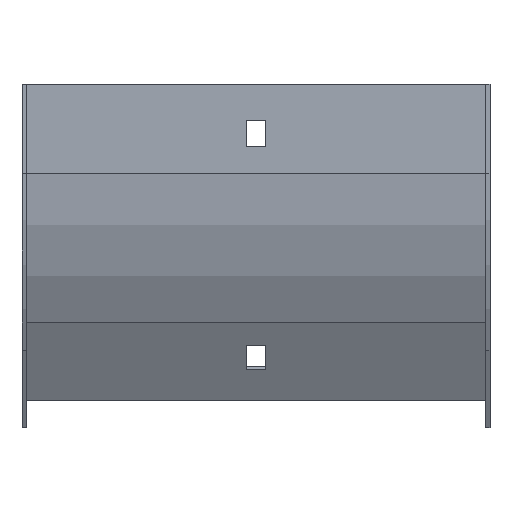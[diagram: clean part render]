
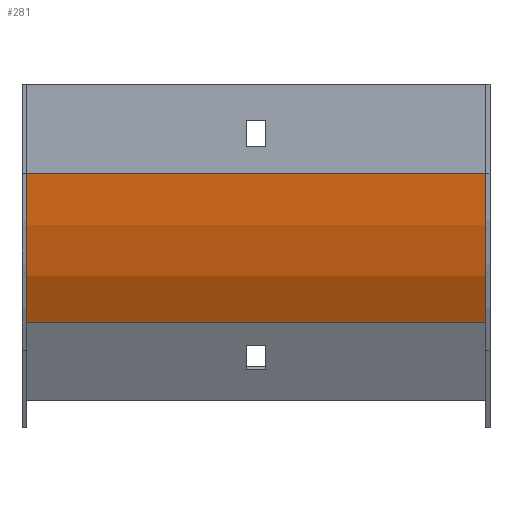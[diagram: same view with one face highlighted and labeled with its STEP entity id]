
A CAD part, front view. The second image highlights one B-rep face of the part: STEP entity #281.
In plain terms, the highlighted cylindrical face has radius 100 mm (diameter 200 mm), a partial arc.
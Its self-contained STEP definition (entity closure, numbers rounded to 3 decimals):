
#10 = VECTOR ( 'NONE', #156, 1000. ) ;
#26 = CARTESIAN_POINT ( 'NONE',  ( -77., 98.5, -30. ) ) ;
#34 = DIRECTION ( 'NONE',  ( 0., 0., -1. ) ) ;
#65 = AXIS2_PLACEMENT_3D ( 'NONE', #577, #450, #655 ) ;
#96 = DIRECTION ( 'NONE',  ( -1., 0., 0. ) ) ;
#106 = CARTESIAN_POINT ( 'NONE',  ( -77., -1.5, -30. ) ) ;
#112 = CARTESIAN_POINT ( 'NONE',  ( 77., -1.5, -30. ) ) ;
#132 = CARTESIAN_POINT ( 'NONE',  ( 78.5, -1.5, -30. ) ) ;
#143 = CARTESIAN_POINT ( 'NONE',  ( -77., 11.897, -80. ) ) ;
#148 = VERTEX_POINT ( 'NONE', #143 ) ;
#151 = ORIENTED_EDGE ( 'NONE', *, *, #543, .T. ) ;
#156 = DIRECTION ( 'NONE',  ( -1., 0., 0. ) ) ;
#161 = ORIENTED_EDGE ( 'NONE', *, *, #441, .T. ) ;
#198 = DIRECTION ( 'NONE',  ( -1., 0., 0. ) ) ;
#207 = DIRECTION ( 'NONE',  ( 0., 0., 1. ) ) ;
#209 = CARTESIAN_POINT ( 'NONE',  ( 78.5, 98.5, -30. ) ) ;
#281 = ADVANCED_FACE ( 'NONE', ( #397 ), #791, .T. ) ;
#303 = CIRCLE ( 'NONE', #65, 100. ) ;
#327 = ORIENTED_EDGE ( 'NONE', *, *, #653, .F. ) ;
#379 = EDGE_CURVE ( 'NONE', #780, #148, #778, .T. ) ;
#389 = DIRECTION ( 'NONE',  ( -1., 0., 0. ) ) ;
#397 = FACE_OUTER_BOUND ( 'NONE', #661, .T. ) ;
#402 = VECTOR ( 'NONE', #389, 1000. ) ;
#441 = EDGE_CURVE ( 'NONE', #780, #478, #303, .T. ) ;
#450 = DIRECTION ( 'NONE',  ( -1., 0., 0. ) ) ;
#472 = AXIS2_PLACEMENT_3D ( 'NONE', #209, #198, #207 ) ;
#478 = VERTEX_POINT ( 'NONE', #112 ) ;
#507 = ORIENTED_EDGE ( 'NONE', *, *, #379, .F. ) ;
#522 = CARTESIAN_POINT ( 'NONE',  ( 78.5, 11.897, -80. ) ) ;
#543 = EDGE_CURVE ( 'NONE', #478, #727, #752, .T. ) ;
#544 = CARTESIAN_POINT ( 'NONE',  ( 77., 11.897, -80. ) ) ;
#557 = CIRCLE ( 'NONE', #721, 100. ) ;
#577 = CARTESIAN_POINT ( 'NONE',  ( 77., 98.5, -30. ) ) ;
#653 = EDGE_CURVE ( 'NONE', #148, #727, #557, .T. ) ;
#655 = DIRECTION ( 'NONE',  ( 0., 0., -1. ) ) ;
#661 = EDGE_LOOP ( 'NONE', ( #327, #507, #161, #151 ) ) ;
#721 = AXIS2_PLACEMENT_3D ( 'NONE', #26, #96, #34 ) ;
#727 = VERTEX_POINT ( 'NONE', #106 ) ;
#752 = LINE ( 'NONE', #132, #10 ) ;
#778 = LINE ( 'NONE', #522, #402 ) ;
#780 = VERTEX_POINT ( 'NONE', #544 ) ;
#791 = CYLINDRICAL_SURFACE ( 'NONE', #472, 100. ) ;
